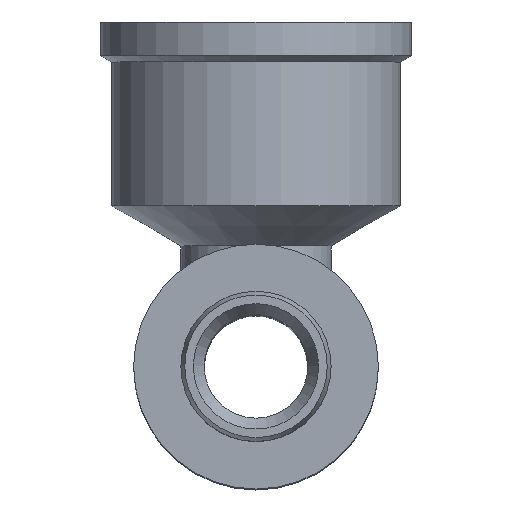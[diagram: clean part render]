
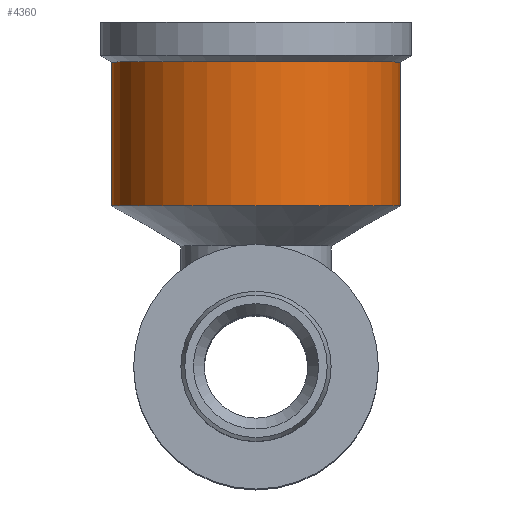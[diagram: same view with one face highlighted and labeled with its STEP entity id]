
A CAD part, top view. The second image highlights one B-rep face of the part: STEP entity #4360.
In plain terms, the highlighted cylindrical face has radius 13 mm (diameter 26 mm), a full revolution.
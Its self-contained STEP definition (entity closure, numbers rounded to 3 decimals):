
#223=CIRCLE('',#4601,13.);
#224=CIRCLE('',#4602,13.);
#225=CIRCLE('',#4604,13.);
#226=CIRCLE('',#4605,13.);
#347=CYLINDRICAL_SURFACE('',#4603,13.);
#595=LINE('',#9177,#864);
#864=VECTOR('',#5293,13.);
#1077=FACE_OUTER_BOUND('',#1331,.T.);
#1331=EDGE_LOOP('',(#3662,#3663,#3664,#3665,#3666,#3667));
#1972=VERTEX_POINT('',#9167);
#1973=VERTEX_POINT('',#9168);
#1974=VERTEX_POINT('',#9173);
#1975=VERTEX_POINT('',#9174);
#2576=EDGE_CURVE('',#1972,#1973,#223,.T.);
#2577=EDGE_CURVE('',#1973,#1972,#224,.T.);
#2579=EDGE_CURVE('',#1974,#1975,#225,.T.);
#2580=EDGE_CURVE('',#1975,#1974,#226,.T.);
#2581=EDGE_CURVE('',#1975,#1973,#595,.T.);
#3662=ORIENTED_EDGE('',*,*,#2579,.F.);
#3663=ORIENTED_EDGE('',*,*,#2580,.F.);
#3664=ORIENTED_EDGE('',*,*,#2581,.T.);
#3665=ORIENTED_EDGE('',*,*,#2577,.T.);
#3666=ORIENTED_EDGE('',*,*,#2576,.T.);
#3667=ORIENTED_EDGE('',*,*,#2581,.F.);
#4360=ADVANCED_FACE('',(#1077),#347,.T.);
#4601=AXIS2_PLACEMENT_3D('',#9169,#5282,#5283);
#4602=AXIS2_PLACEMENT_3D('',#9170,#5284,#5285);
#4603=AXIS2_PLACEMENT_3D('',#9172,#5287,#5288);
#4604=AXIS2_PLACEMENT_3D('',#9175,#5289,#5290);
#4605=AXIS2_PLACEMENT_3D('',#9176,#5291,#5292);
#5282=DIRECTION('center_axis',(0.,-1.,0.));
#5283=DIRECTION('ref_axis',(1.,0.,0.));
#5284=DIRECTION('center_axis',(0.,-1.,0.));
#5285=DIRECTION('ref_axis',(1.,0.,0.));
#5287=DIRECTION('center_axis',(0.,-1.,0.));
#5288=DIRECTION('ref_axis',(0.,0.,1.));
#5289=DIRECTION('center_axis',(0.,-1.,0.));
#5290=DIRECTION('ref_axis',(1.,0.,0.));
#5291=DIRECTION('center_axis',(0.,-1.,0.));
#5292=DIRECTION('ref_axis',(1.,0.,0.));
#5293=DIRECTION('',(0.,1.,0.));
#9167=CARTESIAN_POINT('',(0.,27.423,53.75));
#9168=CARTESIAN_POINT('',(0.,27.423,27.75));
#9169=CARTESIAN_POINT('Origin',(0.,27.423,40.75));
#9170=CARTESIAN_POINT('Origin',(0.,27.423,40.75));
#9172=CARTESIAN_POINT('Origin',(0.,20.961,40.75));
#9173=CARTESIAN_POINT('',(0.,14.5,53.75));
#9174=CARTESIAN_POINT('',(0.,14.5,27.75));
#9175=CARTESIAN_POINT('Origin',(0.,14.5,40.75));
#9176=CARTESIAN_POINT('Origin',(0.,14.5,40.75));
#9177=CARTESIAN_POINT('',(0.,20.961,27.75));
